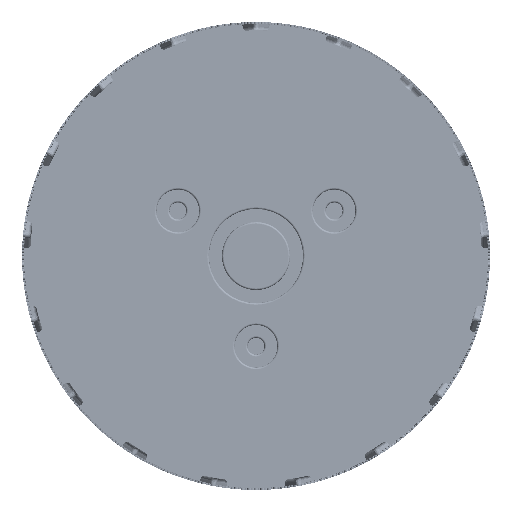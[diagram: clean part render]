
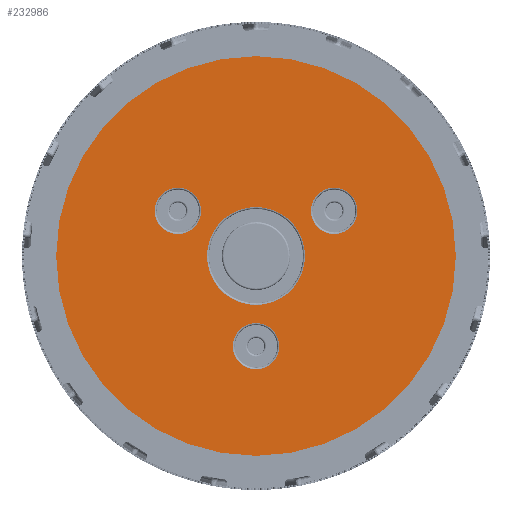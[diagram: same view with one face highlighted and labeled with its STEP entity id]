
A CAD part, front view. The second image highlights one B-rep face of the part: STEP entity #232986.
In plain terms, the highlighted planar face has unit normal (0, -1, 0).
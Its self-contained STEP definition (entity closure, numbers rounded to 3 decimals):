
#1007 = EDGE_CURVE ( 'NONE', #554566, #560619, #285326, .T. ) ;
#1416 = CARTESIAN_POINT ( 'NONE',  ( 0., -7.1, 0. ) ) ;
#11616 = CARTESIAN_POINT ( 'NONE',  ( 0., -7.1, -14. ) ) ;
#15524 = ORIENTED_EDGE ( 'NONE', *, *, #632850, .T. ) ;
#28523 = ORIENTED_EDGE ( 'NONE', *, *, #357018, .T. ) ;
#48226 = CARTESIAN_POINT ( 'NONE',  ( 12.124, -7.1, 7. ) ) ;
#50372 = CARTESIAN_POINT ( 'NONE',  ( 0., -7.1, -31. ) ) ;
#53631 = CARTESIAN_POINT ( 'NONE',  ( 0., -7.1, 31. ) ) ;
#57370 = VERTEX_POINT ( 'NONE', #653824 ) ;
#62860 = VERTEX_POINT ( 'NONE', #122303 ) ;
#63775 = VERTEX_POINT ( 'NONE', #613585 ) ;
#76556 = CARTESIAN_POINT ( 'NONE',  ( 0., -7.1, 0. ) ) ;
#98100 = FACE_BOUND ( 'NONE', #621731, .T. ) ;
#100450 = EDGE_LOOP ( 'NONE', ( #125534, #409434 ) ) ;
#101023 = CARTESIAN_POINT ( 'NONE',  ( 0., -7.1, 0. ) ) ;
#102069 = AXIS2_PLACEMENT_3D ( 'NONE', #123853, #478505, #474125 ) ;
#116217 = CIRCLE ( 'NONE', #181653, 3.6 ) ;
#122303 = CARTESIAN_POINT ( 'NONE',  ( 12.124, -7.1, 10.6 ) ) ;
#123853 = CARTESIAN_POINT ( 'NONE',  ( 0., -7.1, 0. ) ) ;
#125534 = ORIENTED_EDGE ( 'NONE', *, *, #266239, .T. ) ;
#127563 = DIRECTION ( 'NONE',  ( 0., 0., -1. ) ) ;
#127897 = ORIENTED_EDGE ( 'NONE', *, *, #1007, .T. ) ;
#129654 = ORIENTED_EDGE ( 'NONE', *, *, #160345, .T. ) ;
#130346 = EDGE_CURVE ( 'NONE', #573932, #489409, #383320, .T. ) ;
#132510 = AXIS2_PLACEMENT_3D ( 'NONE', #326960, #391132, #428777 ) ;
#134936 = EDGE_LOOP ( 'NONE', ( #151036, #129654 ) ) ;
#151036 = ORIENTED_EDGE ( 'NONE', *, *, #130346, .T. ) ;
#152124 = DIRECTION ( 'NONE',  ( 0., 1., 0. ) ) ;
#153293 = CARTESIAN_POINT ( 'NONE',  ( 12.124, -7.1, 7. ) ) ;
#157603 = DIRECTION ( 'NONE',  ( 0., 1., 0. ) ) ;
#160345 = EDGE_CURVE ( 'NONE', #489409, #573932, #301158, .T. ) ;
#168850 = DIRECTION ( 'NONE',  ( 0., 1., 0. ) ) ;
#176738 = AXIS2_PLACEMENT_3D ( 'NONE', #48226, #354122, #653029 ) ;
#181323 = CARTESIAN_POINT ( 'NONE',  ( 0., -7.1, 0. ) ) ;
#181653 = AXIS2_PLACEMENT_3D ( 'NONE', #268850, #324173, #421682 ) ;
#185688 = DIRECTION ( 'NONE',  ( 0., 1., 0. ) ) ;
#226443 = EDGE_CURVE ( 'NONE', #57370, #494986, #504764, .T. ) ;
#227969 = DIRECTION ( 'NONE',  ( 0., 0., 1. ) ) ;
#232986 = ADVANCED_FACE ( 'NONE', ( #550097, #312572, #360221, #98100, #621290 ), #440457, .F. ) ;
#244614 = AXIS2_PLACEMENT_3D ( 'NONE', #1416, #152124, #351689 ) ;
#246563 = CARTESIAN_POINT ( 'NONE',  ( -12.124, -7.1, 7. ) ) ;
#266239 = EDGE_CURVE ( 'NONE', #497314, #63775, #116217, .T. ) ;
#268850 = CARTESIAN_POINT ( 'NONE',  ( 0., -7.1, -14. ) ) ;
#275080 = AXIS2_PLACEMENT_3D ( 'NONE', #153293, #157603, #454709 ) ;
#285326 = CIRCLE ( 'NONE', #291115, 31. ) ;
#291115 = AXIS2_PLACEMENT_3D ( 'NONE', #76556, #431204, #127563 ) ;
#301158 = CIRCLE ( 'NONE', #132510, 3.6 ) ;
#306958 = CIRCLE ( 'NONE', #176738, 3.6 ) ;
#308823 = EDGE_CURVE ( 'NONE', #376525, #62860, #306958, .T. ) ;
#312572 = FACE_BOUND ( 'NONE', #134936, .T. ) ;
#324173 = DIRECTION ( 'NONE',  ( 0., 1., 0. ) ) ;
#326960 = CARTESIAN_POINT ( 'NONE',  ( -12.124, -7.1, 7. ) ) ;
#351689 = DIRECTION ( 'NONE',  ( 0., 0., 1. ) ) ;
#354122 = DIRECTION ( 'NONE',  ( 0., 1., 0. ) ) ;
#357018 = EDGE_CURVE ( 'NONE', #494986, #57370, #564618, .T. ) ;
#360221 = FACE_BOUND ( 'NONE', #521882, .T. ) ;
#366254 = DIRECTION ( 'NONE',  ( 0., 0., 1. ) ) ;
#376525 = VERTEX_POINT ( 'NONE', #424432 ) ;
#383320 = CIRCLE ( 'NONE', #620951, 3.6 ) ;
#391132 = DIRECTION ( 'NONE',  ( 0., 1., 0. ) ) ;
#409434 = ORIENTED_EDGE ( 'NONE', *, *, #600909, .T. ) ;
#412115 = CARTESIAN_POINT ( 'NONE',  ( 0., -7.1, -7.6 ) ) ;
#418347 = CIRCLE ( 'NONE', #275080, 3.6 ) ;
#421682 = DIRECTION ( 'NONE',  ( 0., 0., 1. ) ) ;
#424432 = CARTESIAN_POINT ( 'NONE',  ( 12.124, -7.1, 3.4 ) ) ;
#428777 = DIRECTION ( 'NONE',  ( 0., 0., 1. ) ) ;
#429759 = CIRCLE ( 'NONE', #561661, 3.6 ) ;
#431204 = DIRECTION ( 'NONE',  ( 0., -1., 0. ) ) ;
#440457 = PLANE ( 'NONE',  #578298 ) ;
#452363 = CIRCLE ( 'NONE', #102069, 31. ) ;
#452623 = DIRECTION ( 'NONE',  ( 0., 0., 1. ) ) ;
#453484 = DIRECTION ( 'NONE',  ( 0., 1., 0. ) ) ;
#454709 = DIRECTION ( 'NONE',  ( 0., 0., 1. ) ) ;
#455650 = DIRECTION ( 'NONE',  ( 0., 0., 1. ) ) ;
#457252 = AXIS2_PLACEMENT_3D ( 'NONE', #101023, #453484, #455650 ) ;
#462167 = CARTESIAN_POINT ( 'NONE',  ( 0., -7.1, -10.4 ) ) ;
#463460 = CARTESIAN_POINT ( 'NONE',  ( -12.124, -7.1, 3.4 ) ) ;
#474125 = DIRECTION ( 'NONE',  ( 0., 0., -1. ) ) ;
#476382 = ORIENTED_EDGE ( 'NONE', *, *, #226443, .T. ) ;
#478505 = DIRECTION ( 'NONE',  ( 0., -1., 0. ) ) ;
#489409 = VERTEX_POINT ( 'NONE', #463460 ) ;
#494986 = VERTEX_POINT ( 'NONE', #412115 ) ;
#497314 = VERTEX_POINT ( 'NONE', #462167 ) ;
#499806 = ORIENTED_EDGE ( 'NONE', *, *, #308823, .T. ) ;
#504764 = CIRCLE ( 'NONE', #244614, 7.6 ) ;
#521882 = EDGE_LOOP ( 'NONE', ( #476382, #28523 ) ) ;
#550097 = FACE_BOUND ( 'NONE', #100450, .T. ) ;
#554566 = VERTEX_POINT ( 'NONE', #50372 ) ;
#560619 = VERTEX_POINT ( 'NONE', #53631 ) ;
#561661 = AXIS2_PLACEMENT_3D ( 'NONE', #11616, #168850, #366254 ) ;
#564618 = CIRCLE ( 'NONE', #457252, 7.6 ) ;
#573932 = VERTEX_POINT ( 'NONE', #576757 ) ;
#574840 = EDGE_CURVE ( 'NONE', #560619, #554566, #452363, .T. ) ;
#576757 = CARTESIAN_POINT ( 'NONE',  ( -12.124, -7.1, 10.6 ) ) ;
#578298 = AXIS2_PLACEMENT_3D ( 'NONE', #181323, #185688, #227969 ) ;
#595240 = EDGE_LOOP ( 'NONE', ( #127897, #614899 ) ) ;
#600884 = DIRECTION ( 'NONE',  ( 0., 1., 0. ) ) ;
#600909 = EDGE_CURVE ( 'NONE', #63775, #497314, #429759, .T. ) ;
#613585 = CARTESIAN_POINT ( 'NONE',  ( 0., -7.1, -17.6 ) ) ;
#614899 = ORIENTED_EDGE ( 'NONE', *, *, #574840, .T. ) ;
#620951 = AXIS2_PLACEMENT_3D ( 'NONE', #246563, #600884, #452623 ) ;
#621290 = FACE_OUTER_BOUND ( 'NONE', #595240, .T. ) ;
#621731 = EDGE_LOOP ( 'NONE', ( #15524, #499806 ) ) ;
#632850 = EDGE_CURVE ( 'NONE', #62860, #376525, #418347, .T. ) ;
#653029 = DIRECTION ( 'NONE',  ( 0., 0., 1. ) ) ;
#653824 = CARTESIAN_POINT ( 'NONE',  ( 0., -7.1, 7.6 ) ) ;
